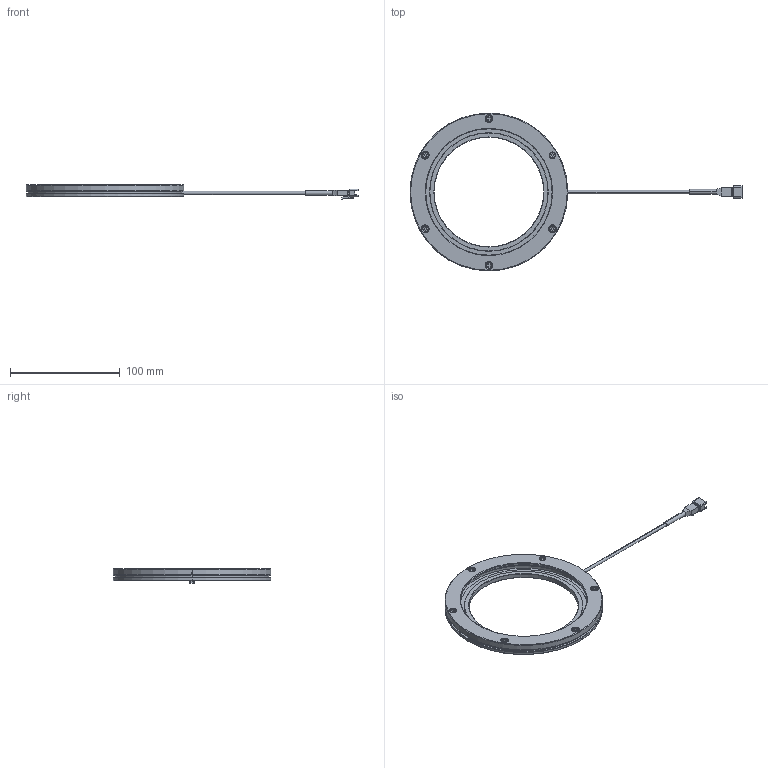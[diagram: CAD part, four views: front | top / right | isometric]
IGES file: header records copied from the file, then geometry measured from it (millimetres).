
Start section: 3D InterOp IGES (v. 2019 1.0.2), Spatial Corp. Copyright (c) 1999-2017.
Global section: file name: VHR-144100_DRAWING_3D.iges; native system: Spatial Corp.; preprocessor: 3D InterOp ACIS/IGES; author: Noname; organization: Noname; date: 20231003.110842; units: millimetre
Bounding box: 303 x 144 x 13.25 mm (x, y, z)
Surface area: 43588.2 mm2 (no closed solid volume)
Topology: 0 solids, 0 shells, 486 faces, 2236 edges, 2236 vertices
Faces by surface type: extrusion 260, revolution 221, bspline 5
